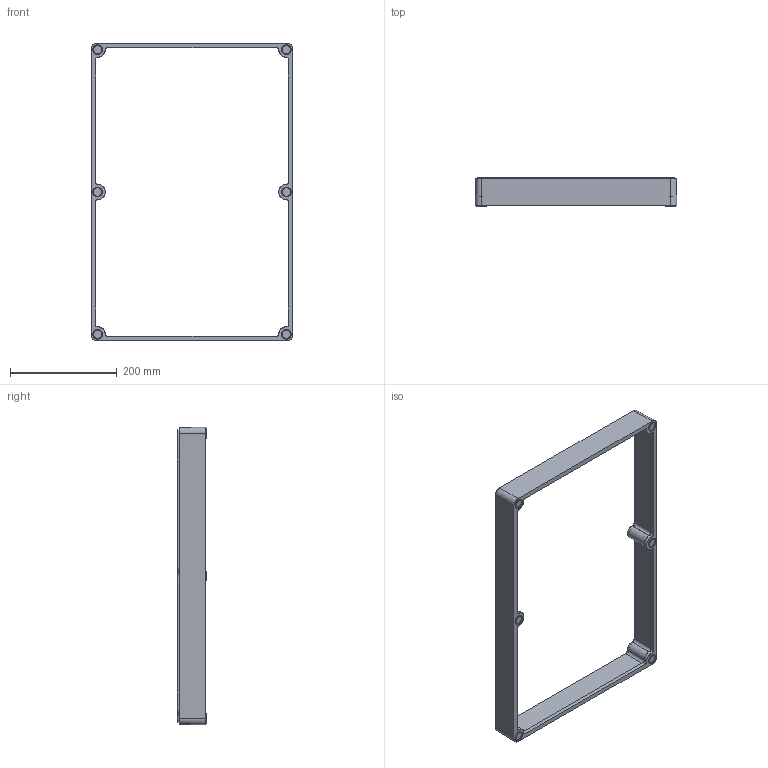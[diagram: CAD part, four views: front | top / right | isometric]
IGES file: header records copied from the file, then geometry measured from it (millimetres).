
Start section: SolidWorks IGES file using analytic representation for surfaces
Global section: file name: G:\3DRAW\EK\3DCAM\Covers etc\FIBOX_EKUZR_Extensionframe.IGS; native system: SolidWorks 2010; preprocessor: SolidWorks 2010; author: KennethW; date: 101011.132402; units: millimetre
Bounding box: 378 x 54.5 x 558 mm (x, y, z)
Surface area: 241982.5 mm2 (no closed solid volume)
Topology: 0 solids, 0 shells, 168 faces, 2648 edges, 2648 vertices
Faces by surface type: revolution 124, bspline 44
